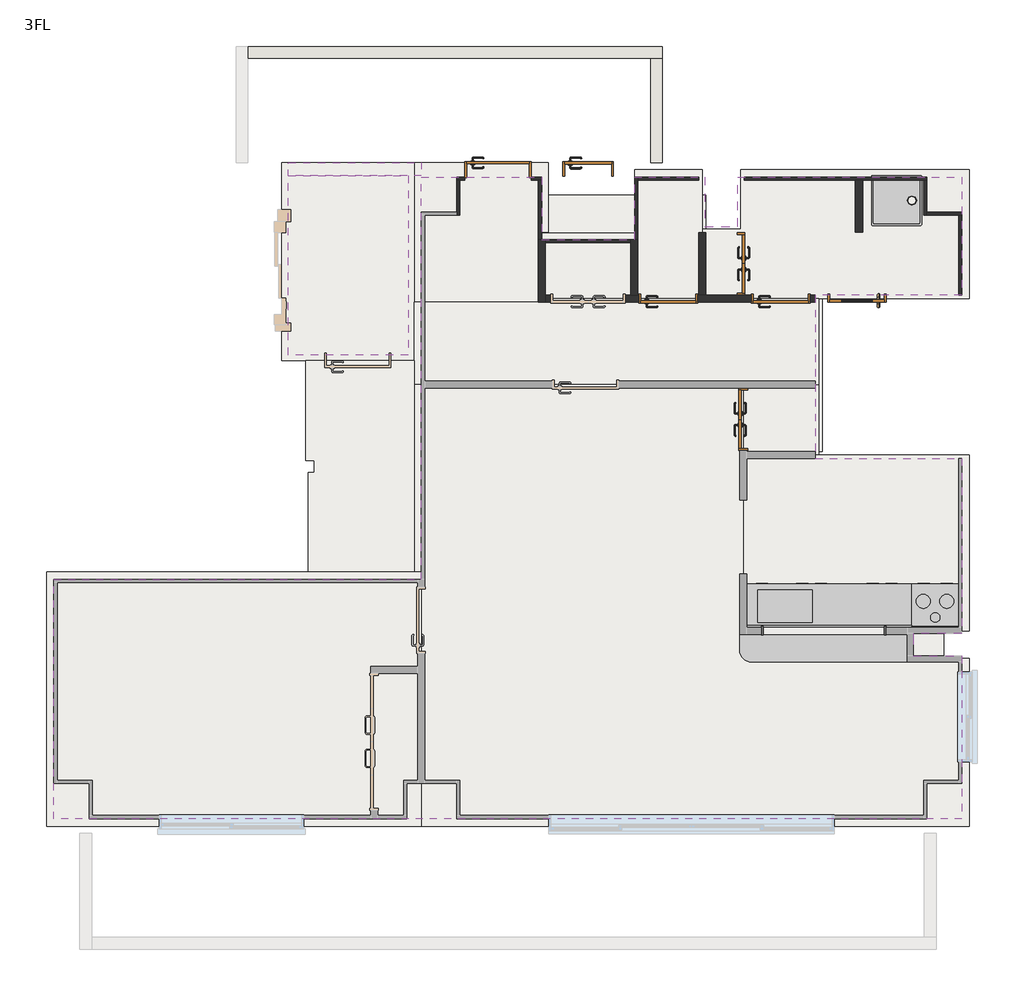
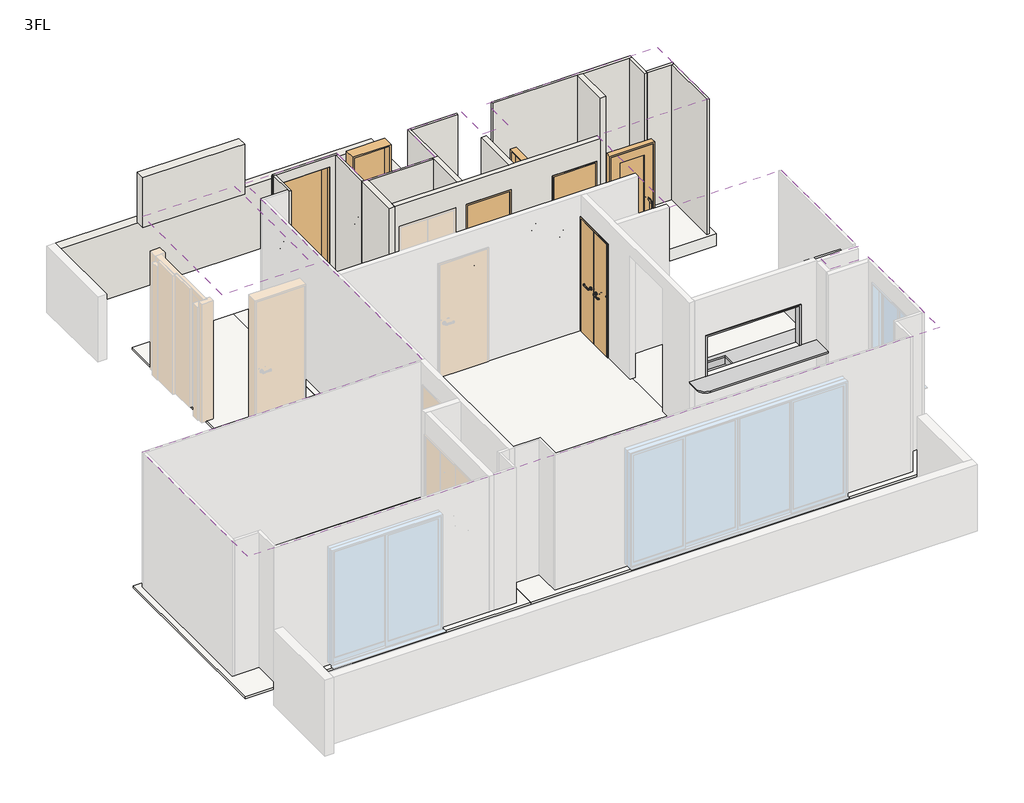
# One storey, part 2 of 2: 18 walls, 16 slabs, 7 doors, 2 coverings, 2 flow terminals, 1 furniture element, 1 proxy.
"""IFC4 building model written with IfcOpenShell, lengths in millimetres."""

from ifc_helpers import new_model, si_unit, frame, origin, place, context, project, spatial, polyline, outline, extrude, faceted_brep, transform, mapped, element, save
from components import w1550h700_1b11893a, w750h2000_bb28a540, w750h2000_3b39e6d6, w750h2000_741aa240, w750h2000_0d8cda2a, w600h2200_8a8f31b7, w700h2000_46fb6d5c, w700h2000_2dbcf825, w800h2200_b9bfe460, flow_terminal_9508bbe0, flow_terminal_4e89506a, furniture_a4760ea0

model = new_model("IFC4")

# Units and contexts
model_context = context("Model", 3, world=origin())
ifc_project = project(units=[si_unit("LENGTHUNIT", "METRE", prefix="MILLI")], contexts=[model_context])

# Site, building, storey
site = spatial("IfcSite", under=ifc_project)
building = spatial("IfcBuilding", under=site)
storey = spatial("IfcBuildingStorey", under=building, Name="3FL", Elevation=6275.0)

# Proxy
placement = place(None, origin())
w1550h700_shape = w1550h700_1b11893a(model_context)
element("IfcBuildingElementProxy", 1, Name="開口枠 - 鋼製 1 : W1550H700", ObjectType="開口枠 - 鋼製 1 : W1550H700", at=placement, inside=storey, context=model_context, shape_type="MappedRepresentation", body=[
    mapped(w1550h700_shape, transform((6358.2341012, -2426.3998484, 7275.0), x_axis=(-1.0, 0.0, 0.0), y_axis=(0.0, -1.0, 0.0), z_axis=(0.0, 0.0, 1.0))),
])

# Coverings
element("IfcCovering", 2, ObjectType="化粧石膏ボード", at=placement, inside=storey, context=model_context, shape_type="SweptSolid", body=[
    extrude(outline(polyline([(4710.7341012, 3378.6001516), (4710.7341012, 2746.1001516), (5135.7341012, 2746.1001516), (5135.7341012, 3378.6001516), (7998.2341012, 3378.6001516), (7998.2341012, 1868.6001516), (6123.2341012, 1868.6001516), (6123.2341012, -221.3998484), (7998.2341012, -221.3998484), (7998.2341012, -2458.8998484), (7375.7341012, -2458.8998484), (7375.7341012, -2748.8998484), (7998.2341012, -2748.8998484), (7998.2341012, -4831.3998484), (-3611.7658988, -4831.3998484), (-3611.7658988, -1771.3998484), (1088.2341012, -1771.3998484), (1088.2341012, 3378.6001516), (2623.2341012, 3378.6001516), (2623.2341012, 2578.6001516), (3813.2341012, 2578.6001516), (3813.2341012, 3378.6001516), (4710.7341012, 3378.6001516)])), frame((0.0, 0.0, 8675.0), z_axis=(0.0, 0.0, 1.0), x_axis=(1.0, 0.0, 0.0)), (0.0, 0.0, 1.0), 9.5),
])
element("IfcCovering", 3, ObjectType="化粧石膏ボード", at=placement, inside=storey, context=model_context, shape_type="SweptSolid", body=[
    extrude(outline(polyline([(918.2341012, 3398.6001516), (918.2341012, 1098.6001516), (-616.7658988, 1098.6001516), (-616.7658988, 3398.6001516), (918.2341012, 3398.6001516)])), frame((0.0, 0.0, 8675.0), z_axis=(0.0, 0.0, 1.0), x_axis=(1.0, 0.0, 0.0)), (0.0, 0.0, 1.0), 9.5),
])

# Doors
w750h2000_shape = w750h2000_bb28a540(model_context)
w750h2000_2_shape = w750h2000_3b39e6d6(model_context)
element("IfcDoor", 4, ObjectType="両開き : W750H2000", at=placement, inside=storey, context=model_context, shape_type="MappedRepresentation", body=[
    mapped(w750h2000_shape, transform((5203.2341012, 278.6001516, 6275.0), x_axis=(0.0, 1.0, 0.0), y_axis=(-1.0, 0.0, 0.0), z_axis=(0.0, 0.0, 1.0))),
    mapped(w750h2000_2_shape, transform((5203.2341012, 278.6001516, 6275.0), x_axis=(0.0, 1.0, 0.0), y_axis=(-1.0, 0.0, 0.0), z_axis=(0.0, 0.0, 1.0))),
])
w750h2000_3_shape = w750h2000_741aa240(model_context)
w750h2000_4_shape = w750h2000_0d8cda2a(model_context)
element("IfcDoor", 5, ObjectType="両開き : W750H2000", at=placement, inside=storey, context=model_context, shape_type="MappedRepresentation", body=[
    mapped(w750h2000_3_shape, transform((5174.4841012, 2268.6001516, 6275.0), x_axis=(0.0, -1.0, 0.0), y_axis=(1.0, 0.0, 0.0), z_axis=(0.0, 0.0, 1.0))),
    mapped(w750h2000_4_shape, transform((5174.4841012, 2268.6001516, 6275.0), x_axis=(0.0, -1.0, 0.0), y_axis=(1.0, 0.0, 0.0), z_axis=(0.0, 0.0, 1.0))),
])
w600h2200_shape = w600h2200_8a8f31b7(model_context)
element("IfcDoor", 6, ObjectType="片開き : w600h2200", at=placement, inside=storey, context=model_context, shape_type="MappedRepresentation", body=[
    mapped(w600h2200_shape, transform((3218.2341012, 3481.1001516, 6275.0), x_axis=(1.0, 0.0, 0.0), y_axis=(0.0, 1.0, 0.0), z_axis=(0.0, 0.0, 1.0))),
])
w700h2000_shape = w700h2000_46fb6d5c(model_context)
element("IfcDoor", 7, ObjectType="片開き : w700h2000", at=placement, inside=storey, context=model_context, shape_type="MappedRepresentation", body=[
    mapped(w700h2000_shape, transform((4243.2341012, 1823.6001516, 6275.0), x_axis=(1.0, 0.0, 0.0), y_axis=(0.0, 1.0, 0.0), z_axis=(0.0, 0.0, 1.0))),
])
element("IfcDoor", 8, ObjectType="片開き : w700h2000", at=placement, inside=storey, context=model_context, shape_type="MappedRepresentation", body=[
    mapped(w700h2000_shape, transform((5683.2341012, 1823.6001516, 6275.0), x_axis=(1.0, 0.0, 0.0), y_axis=(0.0, 1.0, 0.0), z_axis=(0.0, 0.0, 1.0))),
])
w700h2000_2_shape = w700h2000_2dbcf825(model_context)
element("IfcDoor", 9, ObjectType="片開き_ガラス四方框 : w700h2000", at=placement, inside=storey, context=model_context, shape_type="MappedRepresentation", body=[
    mapped(w700h2000_2_shape, transform((6658.2341012, 1829.8501516, 6275.0), x_axis=(-1.0, 0.0, 0.0), y_axis=(0.0, -1.0, 0.0), z_axis=(0.0, 0.0, 1.0))),
])
w800h2200_shape = w800h2200_b9bfe460(model_context)
element("IfcDoor", 10, ObjectType="片開き : w800h2200", at=placement, inside=storey, context=model_context, shape_type="MappedRepresentation", body=[
    mapped(w800h2200_shape, transform((2068.2341012, 3471.1001516, 6275.0), x_axis=(1.0, 0.0, 0.0), y_axis=(0.0, 1.0, 0.0), z_axis=(0.0, 0.0, 1.0))),
])

# Flow terminals
flow_terminal_shape = flow_terminal_9508bbe0(model_context)
element("IfcFlowTerminal", 11, ObjectType="洗濯機パン : 洗濯機パン", at=placement, inside=storey, context=model_context, shape_type="MappedRepresentation", body=[
    mapped(flow_terminal_shape, transform((7163.2341012, 3078.6001516, 6275.0), x_axis=(1.0, 0.0, 0.0), y_axis=(0.0, 1.0, 0.0), z_axis=(0.0, 0.0, 1.0))),
])
flow_terminal_2_shape = flow_terminal_4e89506a(model_context)
element("IfcFlowTerminal", 12, ObjectType="システムキッチンIH : システムキッチンIH\u3000W2710", at=placement, inside=storey, context=model_context, shape_type="MappedRepresentation", body=[
    mapped(flow_terminal_2_shape, transform((7958.2341012, -2381.3998484, 6275.0), x_axis=(1.0, 0.0, 0.0), y_axis=(0.0, 1.0, 0.0), z_axis=(0.0, 0.0, 1.0))),
])

# Furniture
furniture_shape = furniture_a4760ea0(model_context)
element("IfcFurniture", 13, ObjectType="キッチンカウンター : キッチンカウンター", at=placement, inside=storey, context=model_context, shape_type="MappedRepresentation", body=[
    mapped(furniture_shape, transform((7298.2341012, -2381.3998484, 6275.0), x_axis=(1.0, 0.0, 0.0), y_axis=(0.0, 1.0, 0.0), z_axis=(0.0, 0.0, 1.0))),
])

# Slabs
element("IfcSlab", 14, ObjectType="一般180mm", at=placement, inside=storey, context=model_context, shape_type="Brep", body=[
    faceted_brep([(918.2341012, -1751.3998484, 6060.0), (918.2341012, -1771.3998484, 6060.0), (918.2341012, -4601.3998484, 6060.0), (-3381.7658988, -4601.3998484, 6060.0), (-3381.7658988, -1771.3998484, 6060.0), (-3381.7658988, -1751.3998484, 6060.0), (918.2341012, -1751.3998484, 6240.0), (-3381.7658988, -1751.3998484, 6240.0), (-3381.7658988, -1771.3998484, 6240.0), (-3381.7658988, -4601.3998484, 6240.0), (918.2341012, -4601.3998484, 6240.0), (918.2341012, -1771.3998484, 6240.0)], [[[0, 1, 2, 3, 4, 5]], [[6, 7, 8, 9, 10, 11]], [[2, 1, 0, 6, 11, 10]], [[3, 2, 10, 9]], [[5, 4, 3, 9, 8, 7]], [[0, 5, 7, 6]]]),
])
element("IfcSlab", 15, ObjectType="一般180mm", at=placement, inside=storey, context=model_context, shape_type="SweptSolid", body=[
    extrude(outline(polyline([(918.2341012, 1298.6001516), (-481.7658988, 1298.6001516), (-481.7658988, 3148.6001516), (918.2341012, 3148.6001516), (918.2341012, 1298.6001516)])), frame((0.0, 0.0, 6060.0), z_axis=(0.0, 0.0, 1.0), x_axis=(1.0, 0.0, 0.0)), (0.0, 0.0, 1.0), 180.0),
])
element("IfcSlab", 16, ObjectType="一般180mm", at=placement, inside=storey, context=model_context, shape_type="SweptSolid", body=[
    extrude(outline(polyline([(7768.2341012, -481.3998484), (7768.2341012, -4601.3998484), (1318.2341012, -4601.3998484), (1318.2341012, -481.3998484), (7768.2341012, -481.3998484)])), frame((0.0, 0.0, 6060.0), z_axis=(0.0, 0.0, 1.0), x_axis=(1.0, 0.0, 0.0)), (0.0, 0.0, 1.0), 180.0),
])
element("IfcSlab", 17, ObjectType="一般180mm", at=placement, inside=storey, context=model_context, shape_type="Brep", body=[
    faceted_brep([(6213.2341012, -131.3998484, 6060.0), (5853.2341012, -131.3998484, 6060.0), (1318.2341012, -131.3998484, 6060.0), (1318.2341012, 3148.6001516, 6060.0), (4363.2341012, 3148.6001516, 6060.0), (4723.2341012, 3148.6001516, 6060.0), (4723.2341012, 1868.6001516, 6060.0), (6213.2341012, 1868.6001516, 6060.0), (6213.2341012, -131.3998484, 6240.0), (6213.2341012, 1868.6001516, 6240.0), (4723.2341012, 1868.6001516, 6240.0), (4723.2341012, 3148.6001516, 6240.0), (1318.2341012, 3148.6001516, 6240.0), (1318.2341012, -131.3998484, 6240.0)], [[[0, 1, 2, 3, 4, 5, 6, 7]], [[8, 9, 10, 11, 12, 13]], [[2, 1, 0, 8, 13]], [[3, 2, 13, 12]], [[5, 4, 3, 12, 11]], [[6, 5, 11, 10]], [[7, 6, 10, 9]], [[0, 7, 9, 8]]]),
])
element("IfcSlab", 18, ObjectType="一般180mm", at=placement, inside=storey, context=model_context, shape_type="SweptSolid", body=[
    extrude(outline(polyline([(918.2341012, -1601.3998484), (-356.7658988, -1601.3998484), (-356.7658988, -401.3998484), (-281.7658988, -401.3998484), (-281.7658988, -251.3998484), (-391.7658988, -251.3998484), (-391.7658988, 948.6001516), (918.2341012, 948.6001516), (918.2341012, -1601.3998484)])), frame((0.0, 0.0, 6060.0), z_axis=(0.0, 0.0, 1.0), x_axis=(1.0, 0.0, 0.0)), (0.0, 0.0, 1.0), 180.0),
])
element("IfcSlab", 19, ObjectType="磁器タイル", at=placement, inside=storey, context=model_context, shape_type="SweptSolid", body=[
    extrude(outline(polyline([(995.7341012, 1778.6001516), (995.7341012, 3563.6001516), (2708.2341012, 3563.6001516), (2708.2341012, 2673.6001516), (2628.2341012, 2673.6001516), (2628.2341012, 1778.6001516), (995.7341012, 1778.6001516)])), frame((0.0, 0.0, 6240.0), z_axis=(0.0, 0.0, 1.0), x_axis=(1.0, 0.0, 0.0)), (0.0, 0.0, 1.0), 35.0),
])
element("IfcSlab", 20, ObjectType="フローリング", at=placement, inside=storey, context=model_context, shape_type="Brep", body=[
    faceted_brep([(2628.2341012, 1778.6001516, 6240.0), (2628.2341012, 1823.6001516, 6240.0), (6168.2341012, 1823.6001516, 6240.0), (6168.2341012, 723.6001516, 6240.0), (993.2341012, 723.6001516, 6240.0), (993.2341012, 1031.1001516, 6240.0), (993.2341012, 1113.6001516, 6240.0), (993.2341012, 1778.6001516, 6240.0), (2628.2341012, 1778.6001516, 6275.0), (993.2341012, 1778.6001516, 6275.0), (993.2341012, 1113.6001516, 6275.0), (993.2341012, 1031.1001516, 6275.0), (993.2341012, 723.6001516, 6275.0), (6168.2341012, 723.6001516, 6275.0), (6168.2341012, 1823.6001516, 6275.0), (2628.2341012, 1823.6001516, 6275.0)], [[[0, 1, 2, 3, 4, 5, 6, 7]], [[8, 9, 10, 11, 12, 13, 14, 15]], [[3, 2, 14, 13]], [[4, 3, 13, 12]], [[7, 6, 5, 4, 12, 11, 10, 9]], [[0, 7, 9, 8]], [[1, 0, 8, 15]], [[2, 1, 15, 14]]]),
])
element("IfcSlab", 21, ObjectType="フローリング", at=placement, inside=storey, context=model_context, shape_type="SweptSolid", body=[
    extrude(outline(polyline([(3808.2341012, 1823.6001516), (3693.2341012, 1823.6001516), (2743.2341012, 1823.6001516), (2628.2341012, 1823.6001516), (2628.2341012, 2663.6001516), (3808.2341012, 2663.6001516), (3808.2341012, 1823.6001516)])), frame((0.0, 0.0, 6240.0), z_axis=(0.0, 0.0, 1.0), x_axis=(1.0, 0.0, 0.0)), (0.0, 0.0, 1.0), 35.0),
])
element("IfcSlab", 22, ObjectType="フローリング", at=placement, inside=storey, context=model_context, shape_type="SweptSolid", body=[
    extrude(outline(polyline([(4678.2341012, 1823.6001516), (3813.2341012, 1823.6001516), (3813.2341012, 3471.1001516), (4678.2341012, 3471.1001516), (4678.2341012, 1823.6001516)])), frame((0.0, 0.0, 6240.0), z_axis=(0.0, 0.0, 1.0), x_axis=(1.0, 0.0, 0.0)), (0.0, 0.0, 1.0), 35.0),
])
element("IfcSlab", 23, ObjectType="クッションフロアシート", at=placement, inside=storey, context=model_context, shape_type="SweptSolid", body=[
    extrude(outline(polyline([(4678.2341012, 2713.6001516), (5168.2341012, 2713.6001516), (5168.2341012, 3473.6001516), (8093.2341012, 3473.6001516), (8093.2341012, 1823.6001516), (4678.2341012, 1823.6001516), (4678.2341012, 2713.6001516)])), frame((0.0, 0.0, 6060.0), z_axis=(0.0, 0.0, 1.0), x_axis=(1.0, 0.0, 0.0)), (0.0, 0.0, 1.0), 215.0),
])
element("IfcSlab", 24, ObjectType="フローリング", at=placement, inside=storey, context=model_context, shape_type="Brep", body=[
    faceted_brep([(1083.2341012, -1676.3998484, 6240.0), (1083.2341012, -1751.3998484, 6240.0), (1083.2341012, -1771.3998484, 6240.0), (1083.2341012, -4926.3998484, 6240.0), (-3706.7658988, -4926.3998484, 6240.0), (-3706.7658988, -1676.3998484, 6240.0), (-3631.7658988, -1676.3998484, 6240.0), (1083.2341012, -1676.3998484, 6275.0), (-3631.7658988, -1676.3998484, 6275.0), (-3706.7658988, -1676.3998484, 6275.0), (-3706.7658988, -4926.3998484, 6275.0), (1083.2341012, -4926.3998484, 6275.0), (1083.2341012, -1771.3998484, 6275.0)], [[[0, 1, 2, 3, 4, 5, 6]], [[7, 8, 9, 10, 11, 12]], [[3, 2, 1, 0, 7, 12, 11]], [[4, 3, 11, 10]], [[5, 4, 10, 9]], [[0, 6, 5, 9, 8, 7]]]),
])
element("IfcSlab", 25, ObjectType="フローリング", at=placement, inside=storey, context=model_context, shape_type="SweptSolid", body=[
    extrude(outline(polyline([(993.2341012, 723.6001516), (5203.2341012, 723.6001516), (5203.2341012, -2426.3998484), (7343.2341012, -2426.3998484), (7343.2341012, -2781.3998484), (8093.2341012, -2781.3998484), (8093.2341012, -4926.3998484), (1083.2341012, -4926.3998484), (1083.2341012, -1785.1498484), (993.2341012, -1785.1498484), (993.2341012, 723.6001516)])), frame((0.0, 0.0, 6240.0), z_axis=(0.0, 0.0, 1.0), x_axis=(1.0, 0.0, 0.0)), (0.0, 0.0, 1.0), 35.0),
])
element("IfcSlab", 26, ObjectType="フローリング", at=placement, inside=storey, context=model_context, shape_type="SweptSolid", body=[
    extrude(outline(polyline([(8093.2341012, -2426.3998484), (5203.2341012, -2426.3998484), (5203.2341012, -176.3998484), (8093.2341012, -176.3998484), (8093.2341012, -2426.3998484)])), frame((0.0, 0.0, 6240.0), z_axis=(0.0, 0.0, 1.0), x_axis=(1.0, 0.0, 0.0)), (0.0, 0.0, 1.0), 35.0),
])
element("IfcSlab", 27, ObjectType="フローリング", at=placement, inside=storey, context=model_context, shape_type="Brep", body=[
    faceted_brep([(6168.2341012, -176.3998484, 6240.0), (6123.2341012, -176.3998484, 6240.0), (5203.2341012, -176.3998484, 6240.0), (5203.2341012, 723.6001516, 6240.0), (6123.2341012, 723.6001516, 6240.0), (6168.2341012, 723.6001516, 6240.0), (6168.2341012, -176.3998484, 6275.0), (6168.2341012, 723.6001516, 6275.0), (6123.2341012, 723.6001516, 6275.0), (5203.2341012, 723.6001516, 6275.0), (5203.2341012, -176.3998484, 6275.0), (6123.2341012, -176.3998484, 6275.0)], [[[0, 1, 2, 3, 4, 5]], [[6, 7, 8, 9, 10, 11]], [[2, 1, 0, 6, 11, 10]], [[3, 2, 10, 9]], [[5, 4, 3, 9, 8, 7]], [[0, 5, 7, 6]]]),
])
element("IfcSlab", 28, ObjectType="防滑性長尺塩ビシート", at=placement, inside=storey, context=model_context, shape_type="Brep", body=[
    faceted_brep([(993.2341012, -1676.3998484, 6240.0), (-356.7658988, -1676.3998484, 6240.0), (-356.7658988, -401.3998484, 6240.0), (-281.7658988, -401.3998484, 6240.0), (-281.7658988, -251.3998484, 6240.0), (-391.7658988, -251.3998484, 6240.0), (-391.7658988, 1031.1001516, 6240.0), (918.2341012, 1031.1001516, 6240.0), (993.2341012, 1031.1001516, 6240.0), (993.2341012, -1676.3998484, 6275.0), (993.2341012, 1031.1001516, 6275.0), (918.2341012, 1031.1001516, 6275.0), (-391.7658988, 1031.1001516, 6275.0), (-391.7658988, -251.3998484, 6275.0), (-281.7658988, -251.3998484, 6275.0), (-281.7658988, -401.3998484, 6275.0), (-356.7658988, -401.3998484, 6275.0), (-356.7658988, -1676.3998484, 6275.0)], [[[0, 1, 2, 3, 4, 5, 6, 7, 8]], [[9, 10, 11, 12, 13, 14, 15, 16, 17]], [[1, 0, 9, 17]], [[8, 7, 6, 12, 11, 10]], [[0, 8, 10, 9]], [[6, 5, 13, 12]], [[2, 1, 17, 16]], [[3, 2, 16, 15]], [[4, 3, 15, 14]], [[5, 4, 14, 13]]]),
])
element("IfcSlab", 29, ObjectType="磁器タイル", at=placement, inside=storey, context=model_context, shape_type="SweptSolid", body=[
    extrude(outline(polyline([(995.7341012, 1031.1001516), (-699.2658988, 1031.1001516), (-699.2658988, 3563.6001516), (995.7341012, 3563.6001516), (995.7341012, 1031.1001516)])), frame((0.0, 0.0, 6240.0), z_axis=(0.0, 0.0, 1.0), x_axis=(1.0, 0.0, 0.0)), (0.0, 0.0, 1.0), 35.0),
])

# Walls
element("IfcWall", 30, ObjectType="標準-120mm+15mm+15mm", at=placement, inside=storey, context=model_context, shape_type="Brep", body=[
    faceted_brep([(4168.2341012, 4898.6001516, 7375.0), (4018.2341012, 4898.6001516, 7375.0), (-1131.7658988, 4898.6001516, 7375.0), (-1131.7658988, 4898.6001516, 6198.030303), (4018.2341012, 4898.6001516, 6198.030303), (4168.2341012, 4898.6001516, 6198.030303), (-1131.7658988, 5048.6001516, 7375.0), (4168.2341012, 5048.6001516, 7375.0), (4168.2341012, 5048.6001516, 6195.0), (-1131.7658988, 5048.6001516, 6195.0)], [[[0, 1, 2, 3, 4, 5]], [[6, 7, 8, 9]], [[2, 1, 0, 7, 6]], [[7, 0, 5, 8]], [[2, 6, 9, 3]], [[5, 4, 3, 9, 8]]]),
])
element("IfcWall", 31, ObjectType="標準-120mm+15mm+15mm", at=placement, inside=storey, context=model_context, shape_type="SweptSolid", body=[
    extrude(outline(polyline([(3563.6001516, 7375.0), (4898.6001516, 7375.0), (4898.6001516, 6198.030303), (3563.6001516, 6225.0), (3563.6001516, 7375.0)])), frame((4018.2341012, 0.0, 0.0), z_axis=(1.0, 0.0, 0.0), x_axis=(0.0, 1.0, 0.0)), (0.0, 0.0, 1.0), 150.0),
])
element("IfcWall", 32, ObjectType="外壁-150mm+15mm", at=placement, inside=storey, context=model_context, shape_type="Brep", body=[
    faceted_brep([(-616.7658988, 3398.6001516, 8475.0), (903.2341012, 3398.6001516, 8475.0), (1088.2341012, 3398.6001516, 8475.0), (1088.2341012, 3398.6001516, 9360.0), (903.2341012, 3398.6001516, 9360.0), (-616.7658988, 3398.6001516, 9360.0), (-616.7658988, 3398.6001516, 8760.0), (-616.7658988, 3563.6001516, 8475.0), (-616.7658988, 3563.6001516, 9360.0), (1088.2341012, 3563.6001516, 9360.0), (1088.2341012, 3563.6001516, 8475.0), (903.2341012, 3563.6001516, 8475.0), (-616.7658988, 3548.6001516, 9360.0)], [[[0, 1, 2, 3, 4, 5, 6]], [[7, 8, 9, 10, 11]], [[2, 1, 0, 7, 11, 10]], [[5, 4, 3, 9, 8, 12]], [[3, 2, 10, 9]], [[0, 6, 5, 12, 8, 7]]]),
])
element("IfcWall", 33, ObjectType="標準-12.5mm+65ｍｍ+12.5mm", at=placement, inside=storey, context=model_context, shape_type="Brep", body=[
    faceted_brep([(3763.2341012, 2578.6001516, 6275.0), (3763.2341012, 2538.6001516, 6275.0), (3763.2341012, 1868.6001516, 6275.0), (3763.2341012, 1868.6001516, 8675.0), (3763.2341012, 2538.6001516, 8675.0), (3763.2341012, 2578.6001516, 8675.0), (3853.2341012, 2578.6001516, 6275.0), (3853.2341012, 2578.6001516, 8675.0), (3853.2341012, 1868.6001516, 8675.0), (3853.2341012, 1868.6001516, 6275.0)], [[[0, 1, 2, 3, 4, 5]], [[6, 7, 8, 9]], [[2, 1, 0, 6, 9]], [[5, 4, 3, 8, 7]], [[0, 5, 7, 6]], [[3, 2, 9, 8]]]),
])
element("IfcWall", 34, ObjectType="標準-12.5mm+65ｍｍ+12.5mm", at=placement, inside=storey, context=model_context, shape_type="Brep", body=[
    faceted_brep([(2583.2341012, 2578.6001516, 6275.0), (2583.2341012, 1778.6001516, 6275.0), (2583.2341012, 1778.6001516, 8675.0), (2583.2341012, 2578.6001516, 8675.0), (2673.2341012, 2578.6001516, 6275.0), (2673.2341012, 2578.6001516, 8675.0), (2673.2341012, 2538.6001516, 8675.0), (2673.2341012, 1868.6001516, 8675.0), (2673.2341012, 1778.6001516, 8675.0), (2673.2341012, 1778.6001516, 6275.0), (2673.2341012, 1868.6001516, 6275.0), (2673.2341012, 2538.6001516, 6275.0), (2595.7341012, 2578.6001516, 6275.0), (2623.2341012, 2578.6001516, 6275.0), (2623.2341012, 2578.6001516, 8675.0)], [[[0, 1, 2, 3]], [[4, 5, 6, 7, 8, 9, 10, 11]], [[1, 0, 12, 13, 4, 11, 10, 9]], [[3, 2, 8, 7, 6, 5, 14]], [[0, 3, 14, 5, 4, 13, 12]], [[2, 1, 9, 8]]]),
])
element("IfcWall", 35, ObjectType="標準-12.5mm+65ｍｍ+12.5mm（袖壁）", at=placement, inside=storey, context=model_context, shape_type="SweptSolid", body=[
    extrude(outline(polyline([(6728.2341012, 2673.6001516), (6638.2341012, 2673.6001516), (6638.2341012, 3338.6001516), (6728.2341012, 3338.6001516), (6728.2341012, 2673.6001516)])), frame((0.0, 0.0, 6275.0), z_axis=(0.0, 0.0, 1.0), x_axis=(1.0, 0.0, 0.0)), (0.0, 0.0, 1.0), 2400.0),
])
element("IfcWall", 36, ObjectType="標準-12.5mm+65ｍｍ+12.5mm", at=placement, inside=storey, context=model_context, shape_type="SweptSolid", body=[
    extrude(outline(polyline([(4723.2341012, 2668.6001516), (4723.2341012, 1868.6001516), (4633.2341012, 1868.6001516), (4633.2341012, 2668.6001516), (4723.2341012, 2668.6001516)])), frame((0.0, 0.0, 6275.0), z_axis=(0.0, 0.0, 1.0), x_axis=(1.0, 0.0, 0.0)), (0.0, 0.0, 1.0), 2400.0),
])
element("IfcWall", 37, ObjectType="標準-12.5mm+65ｍｍ+12.5mm", at=placement, inside=storey, context=model_context, shape_type="Brep", body=[
    faceted_brep([(2673.2341012, 1868.6001516, 8675.0), (3763.2341012, 1868.6001516, 8675.0), (3853.2341012, 1868.6001516, 8675.0), (4633.2341012, 1868.6001516, 8675.0), (4723.2341012, 1868.6001516, 8675.0), (5135.7341012, 1868.6001516, 8675.0), (5213.2341012, 1868.6001516, 8675.0), (6123.2341012, 1868.6001516, 8675.0), (6123.2341012, 1868.6001516, 6275.0), (6058.2341012, 1868.6001516, 6275.0), (6058.2341012, 1868.6001516, 8300.0), (5308.2341012, 1868.6001516, 8300.0), (5308.2341012, 1868.6001516, 6275.0), (4723.2341012, 1868.6001516, 6275.0), (4633.2341012, 1868.6001516, 6275.0), (4618.2341012, 1868.6001516, 6275.0), (4618.2341012, 1868.6001516, 8300.0), (3868.2341012, 1868.6001516, 8300.0), (3868.2341012, 1868.6001516, 6275.0), (3853.2341012, 1868.6001516, 6275.0), (3763.2341012, 1868.6001516, 6275.0), (3693.2341012, 1868.6001516, 6275.0), (3693.2341012, 1868.6001516, 8300.0), (2743.2341012, 1868.6001516, 8300.0), (2743.2341012, 1868.6001516, 6275.0), (2673.2341012, 1868.6001516, 6275.0), (6123.2341012, 1778.6001516, 8675.0), (2673.2341012, 1778.6001516, 8675.0), (2673.2341012, 1778.6001516, 6275.0), (2743.2341012, 1778.6001516, 6275.0), (2743.2341012, 1778.6001516, 8300.0), (3693.2341012, 1778.6001516, 8300.0), (3693.2341012, 1778.6001516, 6275.0), (3868.2341012, 1778.6001516, 6275.0), (3868.2341012, 1778.6001516, 8300.0), (4618.2341012, 1778.6001516, 8300.0), (4618.2341012, 1778.6001516, 6275.0), (5308.2341012, 1778.6001516, 6275.0), (5308.2341012, 1778.6001516, 8300.0), (6058.2341012, 1778.6001516, 8300.0), (6058.2341012, 1778.6001516, 6275.0), (6123.2341012, 1778.6001516, 6275.0)], [[[0, 1, 2, 3, 4, 5, 6, 7, 8, 9, 10, 11, 12, 13, 14, 15, 16, 17, 18, 19, 20, 21, 22, 23, 24, 25]], [[26, 27, 28, 29, 30, 31, 32, 33, 34, 35, 36, 37, 38, 39, 40, 41]], [[8, 41, 40, 9]], [[28, 25, 24, 29]], [[32, 21, 20, 19, 18, 33]], [[12, 37, 36, 15, 14, 13]], [[7, 6, 5, 4, 3, 2, 1, 0, 27, 26]], [[8, 7, 26, 41]], [[0, 25, 28, 27]], [[23, 30, 29, 24]], [[31, 22, 21, 32]], [[30, 23, 22, 31]], [[39, 10, 9, 40]], [[11, 38, 37, 12]], [[10, 39, 38, 11]], [[35, 16, 15, 36]], [[17, 34, 33, 18]], [[16, 35, 34, 17]]]),
])
element("IfcWall", 38, ObjectType="内壁-27.5mm+12.5", at=placement, inside=storey, context=model_context, shape_type="Brep", body=[
    faceted_brep([(2623.2341012, 3338.6001516, 8675.0), (2583.2341012, 3338.6001516, 8675.0), (1578.2341012, 3338.6001516, 8675.0), (1538.2341012, 3338.6001516, 8675.0), (1538.2341012, 3338.6001516, 6275.0), (1578.2341012, 3338.6001516, 6275.0), (1643.2341012, 3338.6001516, 6275.0), (1643.2341012, 3338.6001516, 8500.0), (2493.2341012, 3338.6001516, 8500.0), (2493.2341012, 3338.6001516, 6275.0), (2583.2341012, 3338.6001516, 6275.0), (2623.2341012, 3338.6001516, 6275.0), (1538.2341012, 3378.6001516, 8675.0), (2623.2341012, 3378.6001516, 8675.0), (2623.2341012, 3378.6001516, 6275.0), (2493.2341012, 3378.6001516, 6275.0), (2493.2341012, 3378.6001516, 8500.0), (1643.2341012, 3378.6001516, 8500.0), (1643.2341012, 3378.6001516, 6275.0), (1538.2341012, 3378.6001516, 6275.0), (1538.2341012, 3351.1001516, 6275.0), (1643.2341012, 3351.1001516, 6275.0), (2623.2341012, 3351.1001516, 6275.0), (2493.2341012, 3351.1001516, 6275.0)], [[[0, 1, 2, 3, 4, 5, 6, 7, 8, 9, 10, 11]], [[12, 13, 14, 15, 16, 17, 18, 19]], [[3, 2, 1, 0, 13, 12]], [[4, 20, 21, 6, 5]], [[22, 11, 10, 9, 23]], [[4, 3, 12, 19, 20]], [[20, 19, 18, 21]], [[14, 22, 23, 15]], [[0, 11, 22, 14, 13]], [[8, 16, 15, 23, 9]], [[17, 7, 6, 21, 18]], [[16, 8, 7, 17]]]),
])
element("IfcWall", 39, ObjectType="内壁-27.5mm+12.5", at=placement, inside=storey, context=model_context, shape_type="Brep", body=[
    faceted_brep([(1578.2341012, 2888.6001516, 6275.0), (1578.2341012, 3338.6001516, 6275.0), (1578.2341012, 3338.6001516, 8675.0), (1578.2341012, 2888.6001516, 8675.0), (1538.2341012, 2888.6001516, 6275.0), (1538.2341012, 2888.6001516, 8675.0), (1538.2341012, 2928.6001516, 8675.0), (1538.2341012, 3338.6001516, 8675.0), (1538.2341012, 3338.6001516, 6275.0), (1538.2341012, 2928.6001516, 6275.0), (1565.7341012, 2888.6001516, 6275.0), (1565.7341012, 3338.6001516, 6275.0)], [[[0, 1, 2, 3]], [[4, 5, 6, 7, 8, 9]], [[3, 2, 7, 6, 5]], [[1, 0, 10, 11]], [[2, 1, 11, 8, 7]], [[0, 3, 5, 4, 10]], [[10, 4, 9, 8, 11]]]),
])
element("IfcWall", 40, ObjectType="内壁-27.5mm+12.5", at=placement, inside=storey, context=model_context, shape_type="SweptSolid", body=[
    extrude(outline(polyline([(8675.0, 2583.2341012), (6275.0, 2583.2341012), (6275.0, 2595.7341012), (6275.0, 2623.2341012), (8675.0, 2623.2341012), (8675.0, 2583.2341012)])), frame((0.0, 2578.6001516, 0.0), z_axis=(0.0, 1.0, 0.0), x_axis=(0.0, 0.0, 1.0)), (0.0, 0.0, 1.0), 760.0),
])
element("IfcWall", 41, ObjectType="内壁-27.5mm+12.5", at=placement, inside=storey, context=model_context, shape_type="SweptSolid", body=[
    extrude(outline(polyline([(2538.6001516, 6275.0), (2538.6001516, 8675.0), (2578.6001516, 8675.0), (2578.6001516, 6275.0), (2551.1001516, 6275.0), (2538.6001516, 6275.0)])), frame((2673.2341012, 0.0, 0.0), z_axis=(1.0, 0.0, 0.0), x_axis=(0.0, 1.0, 0.0)), (0.0, 0.0, 1.0), 1090.0),
])
element("IfcWall", 42, ObjectType="内壁-27.5mm+12.5", at=placement, inside=storey, context=model_context, shape_type="Brep", body=[
    faceted_brep([(3853.2341012, 2578.6001516, 6275.0), (3853.2341012, 3338.6001516, 6275.0), (3853.2341012, 3378.6001516, 6275.0), (3853.2341012, 3378.6001516, 8675.0), (3853.2341012, 3338.6001516, 8675.0), (3853.2341012, 2578.6001516, 8675.0), (3813.2341012, 2578.6001516, 6275.0), (3813.2341012, 2578.6001516, 8675.0), (3813.2341012, 3378.6001516, 8675.0), (3813.2341012, 3378.6001516, 6275.0), (3840.7341012, 3378.6001516, 6275.0), (3840.7341012, 2578.6001516, 6275.0)], [[[0, 1, 2, 3, 4, 5]], [[6, 7, 8, 9]], [[3, 2, 10, 9, 8]], [[5, 4, 3, 8, 7]], [[0, 5, 7, 6, 11]], [[2, 1, 0, 11, 10]], [[11, 6, 9, 10]]]),
])
element("IfcWall", 43, ObjectType="内壁-27.5mm+12.5", at=placement, inside=storey, context=model_context, shape_type="SweptSolid", body=[
    extrude(outline(polyline([(3338.6001516, 6275.0), (3338.6001516, 8675.0), (3378.6001516, 8675.0), (3378.6001516, 6275.0), (3351.1001516, 6275.0), (3338.6001516, 6275.0)])), frame((3853.2341012, 0.0, 0.0), z_axis=(1.0, 0.0, 0.0), x_axis=(0.0, 1.0, 0.0)), (0.0, 0.0, 1.0), 780.0),
])
element("IfcWall", 44, ObjectType="内壁-27.5mm+12.5", at=placement, inside=storey, context=model_context, shape_type="Brep", body=[
    faceted_brep([(5213.2341012, 3338.6001516, 6275.0), (6638.2341012, 3338.6001516, 6275.0), (6728.2341012, 3338.6001516, 6275.0), (7508.2341012, 3338.6001516, 6275.0), (7548.2341012, 3338.6001516, 6275.0), (7548.2341012, 3338.6001516, 8675.0), (7508.2341012, 3338.6001516, 8675.0), (6728.2341012, 3338.6001516, 8675.0), (6638.2341012, 3338.6001516, 8675.0), (5213.2341012, 3338.6001516, 8675.0), (5213.2341012, 3378.6001516, 6275.0), (5213.2341012, 3378.6001516, 8675.0), (7548.2341012, 3378.6001516, 8675.0), (7548.2341012, 3378.6001516, 6275.0), (5213.2341012, 3351.1001516, 6275.0), (7548.2341012, 3351.1001516, 6275.0)], [[[0, 1, 2, 3, 4, 5, 6, 7, 8, 9]], [[10, 11, 12, 13]], [[9, 8, 7, 6, 5, 12, 11]], [[4, 3, 2, 1, 0, 14, 15]], [[0, 9, 11, 10, 14]], [[14, 10, 13, 15]], [[5, 4, 15, 13, 12]]]),
])
element("IfcWall", 45, ObjectType="内壁-27.5mm+12.5", at=placement, inside=storey, context=model_context, shape_type="Brep", body=[
    faceted_brep([(7508.2341012, 3338.6001516, 6275.0), (7508.2341012, 2888.6001516, 6275.0), (7508.2341012, 2888.6001516, 8675.0), (7508.2341012, 3338.6001516, 8675.0), (7548.2341012, 3338.6001516, 6275.0), (7548.2341012, 3338.6001516, 8675.0), (7548.2341012, 2928.6001516, 8675.0), (7548.2341012, 2888.6001516, 8675.0), (7548.2341012, 2888.6001516, 6275.0), (7548.2341012, 2928.6001516, 6275.0), (7520.7341012, 3338.6001516, 6275.0), (7520.7341012, 2888.6001516, 6275.0)], [[[0, 1, 2, 3]], [[4, 5, 6, 7, 8, 9]], [[3, 2, 7, 6, 5]], [[1, 0, 10, 11]], [[0, 3, 5, 4, 10]], [[10, 4, 9, 8, 11]], [[2, 1, 11, 8, 7]]]),
])
element("IfcWall", 46, ObjectType="内壁-27.5mm+12.5", at=placement, inside=storey, context=model_context, shape_type="Brep", body=[
    faceted_brep([(7548.2341012, 2888.6001516, 6275.0), (7958.2341012, 2888.6001516, 6275.0), (7998.2341012, 2888.6001516, 6275.0), (7998.2341012, 2888.6001516, 8675.0), (7958.2341012, 2888.6001516, 8675.0), (7548.2341012, 2888.6001516, 8675.0), (7548.2341012, 2928.6001516, 6275.0), (7548.2341012, 2928.6001516, 8675.0), (7998.2341012, 2928.6001516, 8675.0), (7998.2341012, 2928.6001516, 6275.0), (7548.2341012, 2901.1001516, 6275.0), (7998.2341012, 2901.1001516, 6275.0)], [[[0, 1, 2, 3, 4, 5]], [[6, 7, 8, 9]], [[5, 4, 3, 8, 7]], [[2, 1, 0, 10, 11]], [[0, 5, 7, 6, 10]], [[10, 6, 9, 11]], [[3, 2, 11, 9, 8]]]),
])
element("IfcWall", 47, ObjectType="内壁-27.5mm+12.5", at=placement, inside=storey, context=model_context, shape_type="SweptSolid", body=[
    extrude(outline(polyline([(8675.0, 7958.2341012), (6275.0, 7958.2341012), (6275.0, 7970.7341012), (6275.0, 7998.2341012), (8675.0, 7998.2341012), (8675.0, 7958.2341012)])), frame((0.0, 1868.6001516, 0.0), z_axis=(0.0, 1.0, 0.0), x_axis=(0.0, 0.0, 1.0)), (0.0, 0.0, 1.0), 1020.0),
])

save(model, "model.ifc")
